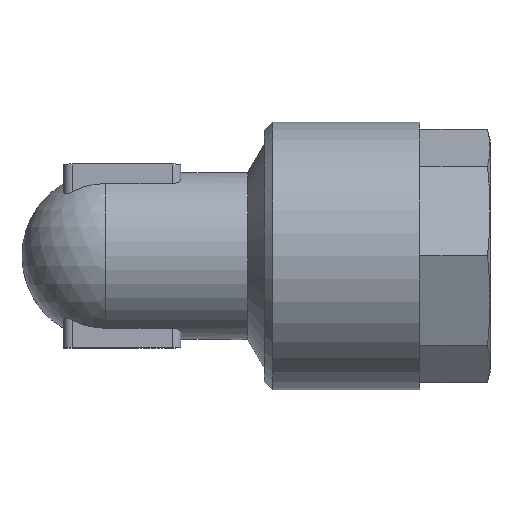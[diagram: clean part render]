
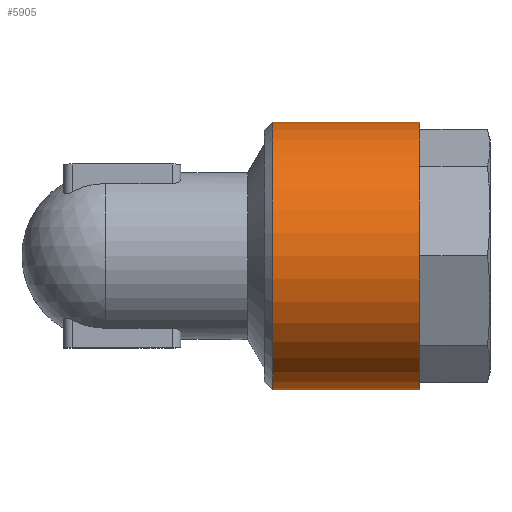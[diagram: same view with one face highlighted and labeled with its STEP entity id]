
A CAD part, top view. The second image highlights one B-rep face of the part: STEP entity #5905.
In plain terms, the highlighted cylindrical face has radius 8 mm (diameter 16 mm), a full revolution.
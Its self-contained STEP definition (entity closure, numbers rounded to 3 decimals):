
#1823=CYLINDRICAL_SURFACE('',#5761,8.);
#1934=ORIENTED_EDGE('',*,*,#2379,.F.);
#1935=ORIENTED_EDGE('',*,*,#2380,.T.);
#2175=CIRCLE('',#5760,8.);
#2176=CIRCLE('',#5762,8.);
#2249=VERTEX_POINT('',#3160);
#2250=VERTEX_POINT('',#3163);
#2379=EDGE_CURVE('',#2249,#2249,#2175,.T.);
#2380=EDGE_CURVE('',#2250,#2250,#2176,.T.);
#2521=EDGE_LOOP('',(#1934));
#2522=EDGE_LOOP('',(#1935));
#2623=FACE_BOUND('',#2521,.T.);
#2624=FACE_BOUND('',#2522,.T.);
#2816=DIRECTION('',(0.,1.,0.));
#2817=DIRECTION('',(0.,0.,8.));
#2818=DIRECTION('',(0.,1.,0.));
#2819=DIRECTION('',(1.,0.,0.));
#2820=DIRECTION('',(0.,1.,0.));
#2821=DIRECTION('',(0.,0.,-8.));
#3160=CARTESIAN_POINT('',(26.989,23.895,8.));
#3161=CARTESIAN_POINT('',(26.989,23.895,0.));
#3162=CARTESIAN_POINT('',(26.989,15.095,0.));
#3163=CARTESIAN_POINT('',(26.989,15.095,-8.));
#3164=CARTESIAN_POINT('',(26.989,15.095,0.));
#5760=AXIS2_PLACEMENT_3D('',#3161,#2816,#2817);
#5761=AXIS2_PLACEMENT_3D('',#3162,#2818,#2819);
#5762=AXIS2_PLACEMENT_3D('',#3164,#2820,#2821);
#5905=ADVANCED_FACE('',(#2623,#2624),#1823,.T.);
